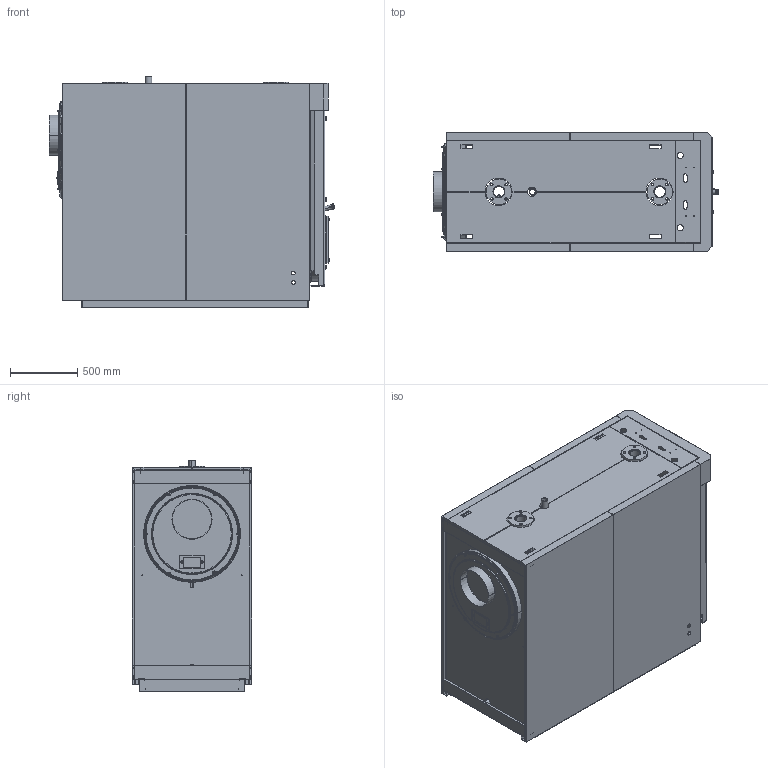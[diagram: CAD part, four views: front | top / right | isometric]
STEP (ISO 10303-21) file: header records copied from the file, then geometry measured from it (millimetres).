
FILE_DESCRIPTION(('CATIA V5 STEP Exchange'),'2;1');
FILE_NAME('K:\Archivio\Wip-Volpago\Progetto prova\STRETTA 3S\Disegni Progetto - Temp\511\STP\20031980.stp','2023-03-23T10:55:00+00:00',('Riello S.p.A.'),('Riello S.p.A.'),'CATIA Version 5 Release 20 SP 6 (IN-10)','CATIA V5 STEP AP203','none');
FILE_SCHEMA(('CONFIG_CONTROL_DESIGN'));
Products named in the file (9): 20031980; 20026085; FSB116865; 20024646; 20024652; FSB116715; 20026118; FSB100731; 20030345
Assembly tree (124 placements, depth 4):
  20031980
    20026085
      #66
      #4965
      FSB116865  x2
        #7569
        #7743
      #8185
      #8402
      #8619  x2
      #10437
      #10606
      #12644
      #12866  x6
      #13511
    20024646
      20024652
        #13753
        #21903
        #24846
        #25904  x4
    FSB116715  x2
      #26464
      #28176
    #28924  x8
    #29795
    20026118
      #30571
      #32874  x2
      #33494
    #33716
    #34538
    #34707
    #34880
    #35748  x6
    #37343
    #38108  x2
    #40881  x6
    #41744  x6
    #42643  x6
    #43256  x6
    #43575
    #44772
    #46177  x4
    #47018  x2
    #47187
    #47344
    #86533
    FSB100731
      #88568
      #88931  x2
      #92551  x2
      #92720  x2
    20030345
      #93639
      #99968
    #106339
    #106828
    #107181  x2
    #108597
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Bounding box: 2130.07 x 890 x 1730 mm (x, y, z)
Volume: 88378234.9 mm3; surface area: 35381397 mm2
Topology: 125 solids, 126 shells, 6256 faces, 15210 edges, 9290 vertices
Faces by surface type: plane 3458, cylinder 1837, cone 616, torus 146, bspline 139, sphere 52, revolution 8
Entity records: 140957 total; most frequent: CARTESIAN_POINT 45083, ORIENTED_EDGE 22300, DIRECTION 14167, EDGE_CURVE 11150, VERTEX_POINT 6734, VECTOR 5707, LINE 5707, AXIS2_PLACEMENT_3D 5240
